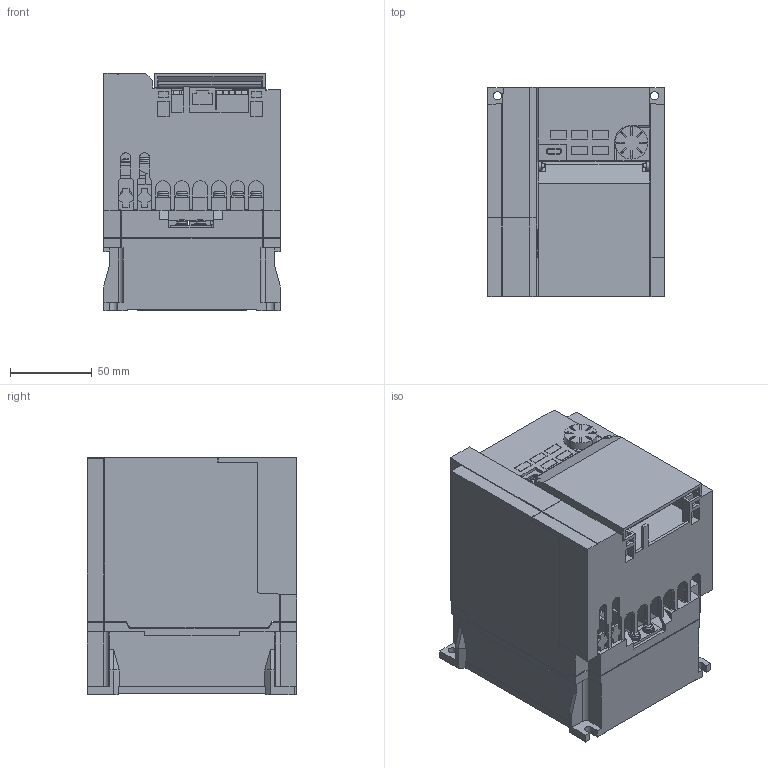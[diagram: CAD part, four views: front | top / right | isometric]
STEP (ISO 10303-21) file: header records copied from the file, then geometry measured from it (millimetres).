
FILE_DESCRIPTION((''),'2;1');
FILE_NAME('3D-INV-53_04_ASM','2024-11-26T16:22:13',('CT89920'),(''),'CREO PARAMETRIC BY PTC INC, 2022281','CREO PARAMETRIC BY PTC INC, 2022281','');
FILE_SCHEMA(('CONFIG_CONTROL_DESIGN','SHAPE_APPEARANCE_LAYERS_GROUPS'));
Length unit declared in the file: millimetre
Products named in the file (8): 3D-BASE-53_04; 3D-TE_SHORT-31_06; 3D-TE_NEJI-M4X8-ZA7; 3D-TE-NEJI-34_05_ASM; 3D-SW-PW-P-M3_5X10; 3D-W_COV-53_04; 3D-S_COV-D80-1_5; 3D-INV-53_04_ASM
Assembly tree (16 placements, depth 3):
  3D-INV-53_04_ASM
    3D-BASE-53_04
    3D-TE-NEJI-34_05_ASM
      3D-TE_SHORT-31_06
      3D-TE_NEJI-M4X8-ZA7  x9
    3D-SW-PW-P-M3_5X10  x2
    3D-W_COV-53_04
    3D-S_COV-D80-1_5
Bounding box: 108 x 128 x 145 mm (x, y, z)
Volume: 707002.5 mm3; surface area: 257681.1 mm2
Topology: 15 solids, 15 shells, 1316 faces, 3589 edges, 2315 vertices
Faces by surface type: plane 1101, cylinder 131, torus 24, cone 22, sphere 22, extrusion 16
Entity records: 45911 total; most frequent: CARTESIAN_POINT 7287, ORIENTED_EDGE 6498, DIRECTION 5830, EDGE_CURVE 3249, VECTOR 2976, LINE 2960, VERTEX_POINT 2128, PRESENTATION_STYLE_ASSIGNMENT 1562
